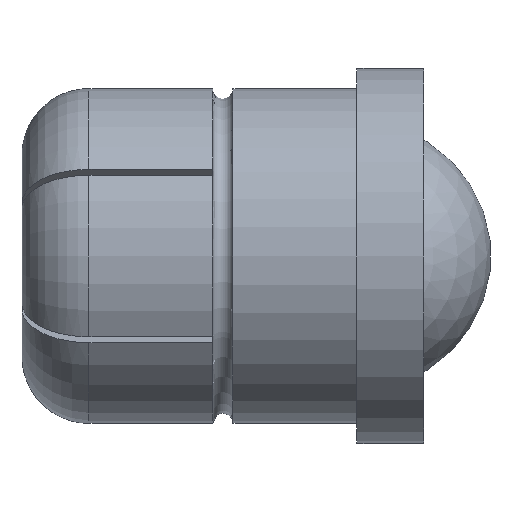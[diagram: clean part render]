
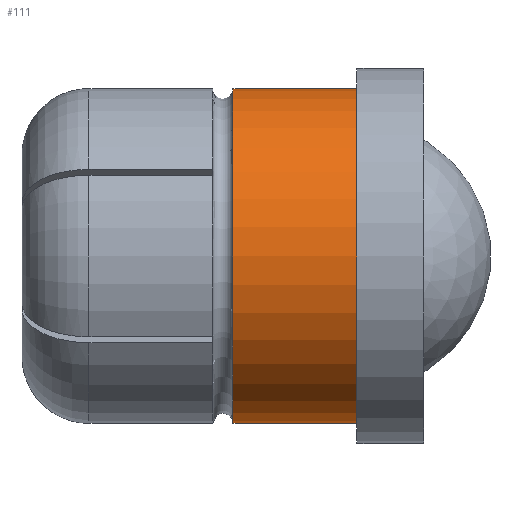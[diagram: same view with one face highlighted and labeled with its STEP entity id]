
A CAD part, front view. The second image highlights one B-rep face of the part: STEP entity #111.
In plain terms, the highlighted cylindrical face has radius 2.5 mm (diameter 5 mm), a full revolution.
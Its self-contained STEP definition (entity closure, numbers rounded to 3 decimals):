
#111 = ADVANCED_FACE( '', ( #216, #217 ), #218, .T. );
#216 = FACE_OUTER_BOUND( '', #349, .T. );
#217 = FACE_OUTER_BOUND( '', #350, .T. );
#218 = CYLINDRICAL_SURFACE( '', #351, 2.5 );
#349 = EDGE_LOOP( '', ( #712 ) );
#350 = EDGE_LOOP( '', ( #713 ) );
#351 = AXIS2_PLACEMENT_3D( '', #714, #715, #716 );
#712 = ORIENTED_EDGE( '', *, *, #1045, .F. );
#713 = ORIENTED_EDGE( '', *, *, #1046, .T. );
#714 = CARTESIAN_POINT( '', ( 1., 0., 0. ) );
#715 = DIRECTION( '', ( -1., 0., 0. ) );
#716 = DIRECTION( '', ( 0., 0., -1. ) );
#1045 = EDGE_CURVE( '', #1303, #1303, #1304, .T. );
#1046 = EDGE_CURVE( '', #1305, #1305, #1306, .T. );
#1303 = VERTEX_POINT( '', #1791 );
#1304 = CIRCLE( '', #1792, 2.5 );
#1305 = VERTEX_POINT( '', #1793 );
#1306 = CIRCLE( '', #1794, 2.5 );
#1791 = CARTESIAN_POINT( '', ( 0., 0., -2.5 ) );
#1792 = AXIS2_PLACEMENT_3D( '', #2008, #2009, #2010 );
#1793 = CARTESIAN_POINT( '', ( -1.85, 0., -2.5 ) );
#1794 = AXIS2_PLACEMENT_3D( '', #2011, #2012, #2013 );
#2008 = CARTESIAN_POINT( '', ( 0., 0., 0. ) );
#2009 = DIRECTION( '', ( 1., 0., 0. ) );
#2010 = DIRECTION( '', ( 0., 0., -1. ) );
#2011 = CARTESIAN_POINT( '', ( -1.85, 0., 0. ) );
#2012 = DIRECTION( '', ( 1., 0., 0. ) );
#2013 = DIRECTION( '', ( 0., 0., -1. ) );
